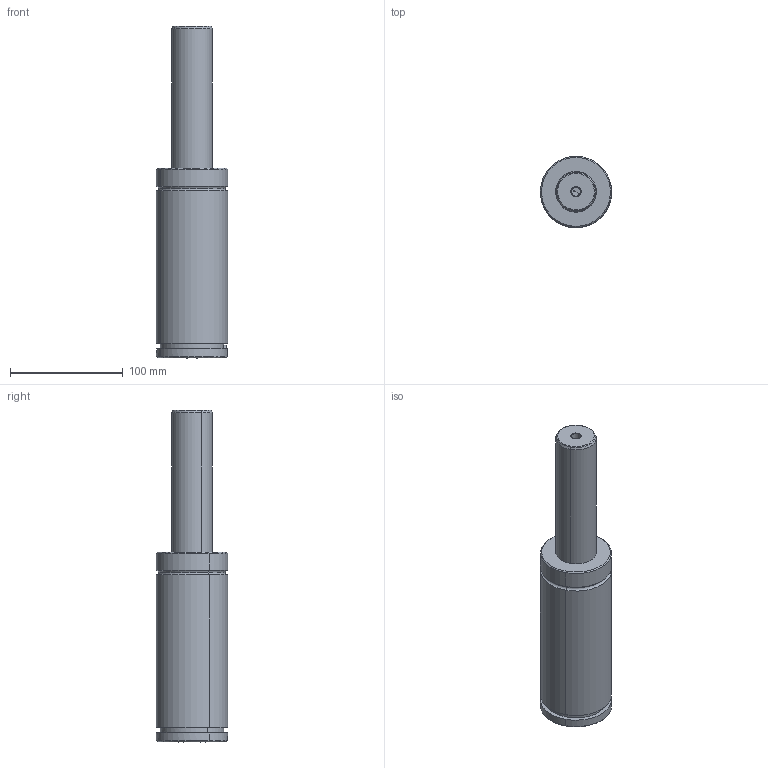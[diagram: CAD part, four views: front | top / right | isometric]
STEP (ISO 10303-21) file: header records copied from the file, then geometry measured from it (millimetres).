
FILE_DESCRIPTION(('FreeCAD Model'),'2;1');
FILE_NAME('Open CASCADE Shape Model','2024-11-12T12:26:37',('Author'),( ''),'Open CASCADE STEP processor 7.6','FreeCAD','Unknown');
FILE_SCHEMA(('AUTOMOTIVE_DESIGN { 1 0 10303 214 1 1 1 1 }'));
Length unit declared in the file: millimetre
Products named in the file (2): Part001; Cut
Assembly tree (1 placements, depth 2):
  Part001
    Cut
Bounding box: 62.99 x 62.98 x 294 mm (x, y, z)
Volume: 644093.4 mm3; surface area: 56865.1 mm2
Topology: 1 solids, 2 shells, 94 faces, 213 edges, 127 vertices
Faces by surface type: cone 34, cylinder 31, plane 21, torus 8
Full cylindrical faces by diameter (mm): 8 x4
Entity records: 3226 total; most frequent: CARTESIAN_POINT 1180, ORIENTED_EDGE 414, DIRECTION 408, EDGE_CURVE 207, AXIS2_PLACEMENT_3D 167, VERTEX_POINT 127, FACE_BOUND 106, EDGE_LOOP 106
